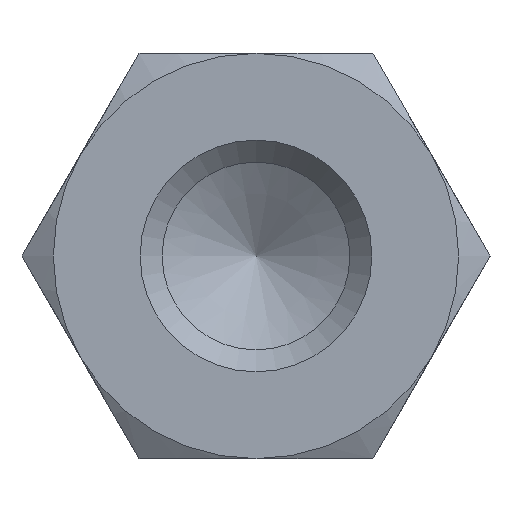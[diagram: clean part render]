
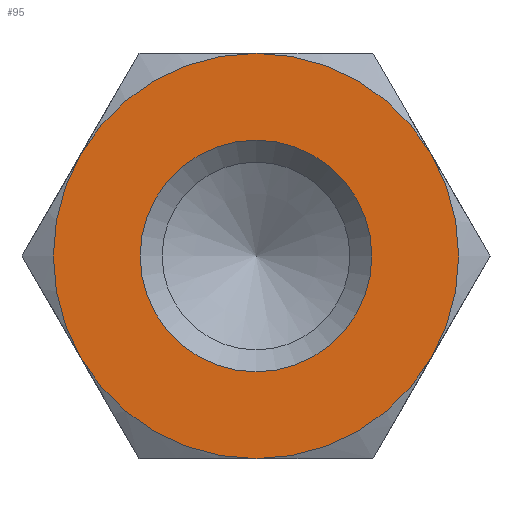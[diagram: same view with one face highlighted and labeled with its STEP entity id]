
A CAD part, left-side view. The second image highlights one B-rep face of the part: STEP entity #95.
In plain terms, the highlighted planar face has unit normal (-1, 0, 0).
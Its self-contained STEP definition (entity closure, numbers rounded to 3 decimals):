
#95 = ADVANCED_FACE( '', ( #147, #148 ), #149, .F. );
#147 = FACE_OUTER_BOUND( '', #206, .T. );
#148 = FACE_BOUND( '', #207, .T. );
#149 = PLANE( '', #208 );
#206 = EDGE_LOOP( '', ( #356, #357, #358, #359, #360, #361 ) );
#207 = EDGE_LOOP( '', ( #362 ) );
#208 = AXIS2_PLACEMENT_3D( '', #363, #364, #365 );
#356 = ORIENTED_EDGE( '', *, *, #440, .F. );
#357 = ORIENTED_EDGE( '', *, *, #425, .F. );
#358 = ORIENTED_EDGE( '', *, *, #441, .F. );
#359 = ORIENTED_EDGE( '', *, *, #437, .F. );
#360 = ORIENTED_EDGE( '', *, *, #442, .F. );
#361 = ORIENTED_EDGE( '', *, *, #443, .F. );
#362 = ORIENTED_EDGE( '', *, *, #439, .T. );
#363 = CARTESIAN_POINT( '', ( -35., 0., 0. ) );
#364 = DIRECTION( '', ( 1., 0., 0. ) );
#365 = DIRECTION( '', ( 0., 0., -1. ) );
#425 = EDGE_CURVE( '', #495, #493, #497, .T. );
#437 = EDGE_CURVE( '', #447, #506, #513, .T. );
#439 = EDGE_CURVE( '', #516, #516, #517, .T. );
#440 = EDGE_CURVE( '', #493, #486, #518, .T. );
#441 = EDGE_CURVE( '', #506, #495, #519, .T. );
#442 = EDGE_CURVE( '', #481, #447, #520, .T. );
#443 = EDGE_CURVE( '', #486, #481, #521, .T. );
#447 = VERTEX_POINT( '', #525 );
#481 = VERTEX_POINT( '', #595 );
#486 = VERTEX_POINT( '', #611 );
#493 = VERTEX_POINT( '', #632 );
#495 = VERTEX_POINT( '', #637 );
#497 = CIRCLE( '', #644, 3.5 );
#506 = VERTEX_POINT( '', #670 );
#513 = CIRCLE( '', #701, 3.5 );
#516 = VERTEX_POINT( '', #704 );
#517 = CIRCLE( '', #705, 2. );
#518 = CIRCLE( '', #706, 3.5 );
#519 = CIRCLE( '', #707, 3.5 );
#520 = CIRCLE( '', #708, 3.5 );
#521 = CIRCLE( '', #709, 3.5 );
#525 = CARTESIAN_POINT( '', ( -35., -3.031, 1.75 ) );
#595 = CARTESIAN_POINT( '', ( -35., 0., 3.5 ) );
#611 = CARTESIAN_POINT( '', ( -35., 3.031, 1.75 ) );
#632 = CARTESIAN_POINT( '', ( -35., 3.031, -1.75 ) );
#637 = CARTESIAN_POINT( '', ( -35., 0., -3.5 ) );
#644 = AXIS2_PLACEMENT_3D( '', #744, #745, #746 );
#670 = CARTESIAN_POINT( '', ( -35., -3.031, -1.75 ) );
#701 = AXIS2_PLACEMENT_3D( '', #749, #750, #751 );
#704 = CARTESIAN_POINT( '', ( -35., 2., 0. ) );
#705 = AXIS2_PLACEMENT_3D( '', #755, #756, #757 );
#706 = AXIS2_PLACEMENT_3D( '', #758, #759, #760 );
#707 = AXIS2_PLACEMENT_3D( '', #761, #762, #763 );
#708 = AXIS2_PLACEMENT_3D( '', #764, #765, #766 );
#709 = AXIS2_PLACEMENT_3D( '', #767, #768, #769 );
#744 = CARTESIAN_POINT( '', ( -35., 0., 0. ) );
#745 = DIRECTION( '', ( 1., 0., 0. ) );
#746 = DIRECTION( '', ( 0., 0., -1. ) );
#749 = CARTESIAN_POINT( '', ( -35., 0., 0. ) );
#750 = DIRECTION( '', ( 1., 0., 0. ) );
#751 = DIRECTION( '', ( 0., 0., -1. ) );
#755 = CARTESIAN_POINT( '', ( -35., 0., 0. ) );
#756 = DIRECTION( '', ( 1., 0., 0. ) );
#757 = DIRECTION( '', ( 0., 1., 0. ) );
#758 = CARTESIAN_POINT( '', ( -35., 0., 0. ) );
#759 = DIRECTION( '', ( 1., 0., 0. ) );
#760 = DIRECTION( '', ( 0., 0., -1. ) );
#761 = CARTESIAN_POINT( '', ( -35., 0., 0. ) );
#762 = DIRECTION( '', ( 1., 0., 0. ) );
#763 = DIRECTION( '', ( 0., 0., -1. ) );
#764 = CARTESIAN_POINT( '', ( -35., 0., 0. ) );
#765 = DIRECTION( '', ( 1., 0., 0. ) );
#766 = DIRECTION( '', ( 0., 0., -1. ) );
#767 = CARTESIAN_POINT( '', ( -35., 0., 0. ) );
#768 = DIRECTION( '', ( 1., 0., 0. ) );
#769 = DIRECTION( '', ( 0., 0., -1. ) );
